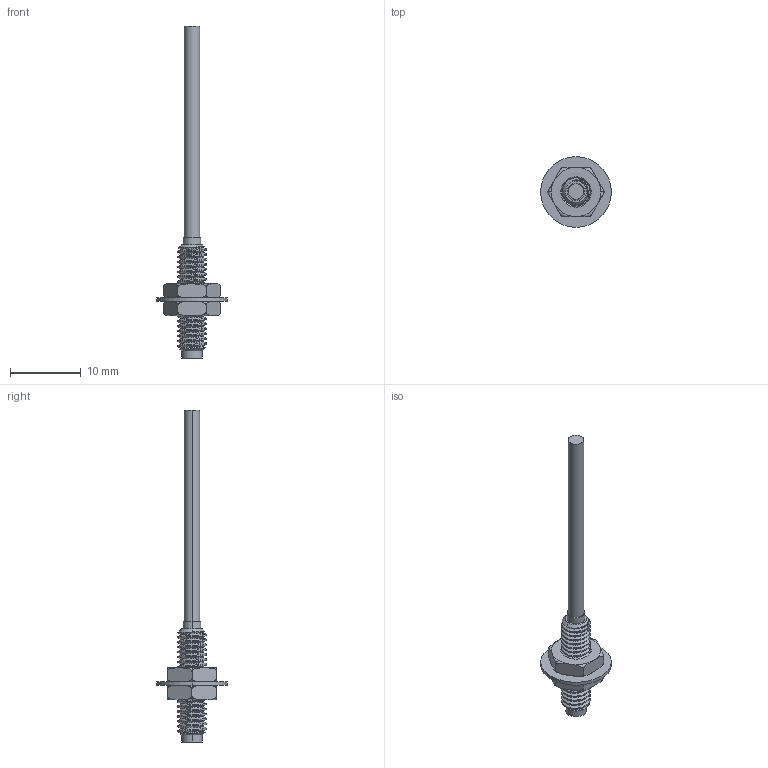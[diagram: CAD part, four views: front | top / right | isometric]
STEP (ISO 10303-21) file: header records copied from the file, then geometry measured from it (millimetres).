
FILE_DESCRIPTION (( 'STEP AP203' ), '1' );
FILE_NAME ('FQ-88_T.STEP', '2020-11-04T03:42:27', ( '' ), ( '' ), 'SwSTEP 2.0', 'SolidWorks 2020', '' );
FILE_SCHEMA (( 'CONFIG_CONTROL_DESIGN' ));
Length unit declared in the file: millimetre
Products named in the file (4): M4蹟譫x2x2x2; M4菜え____; FQ-88_T
Assembly tree (4 placements, depth 2):
  FQ-88_T
    FQ-88_T
    M4蹟譫x2x2x2  x2
    M4菜え____
Bounding box: 10 x 10 x 47 mm (x, y, z)
Volume: 437.8 mm3; surface area: 937.4 mm2
Topology: 4 solids, 4 shells, 119 faces, 308 edges, 202 vertices
Faces by surface type: cylinder 63, plane 25, cone 14, bspline 9, torus 8
Entity records: 7724 total; most frequent: CARTESIAN_POINT 5261, ORIENTED_EDGE 494, DIRECTION 362, EDGE_CURVE 247, VERTEX_POINT 163, AXIS2_PLACEMENT_3D 145, EDGE_LOOP 104, ADVANCED_FACE 95
